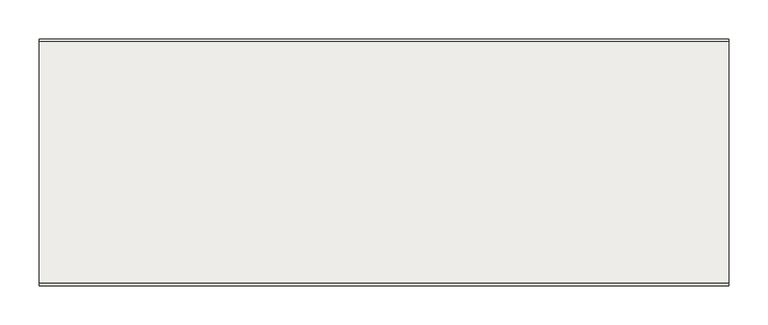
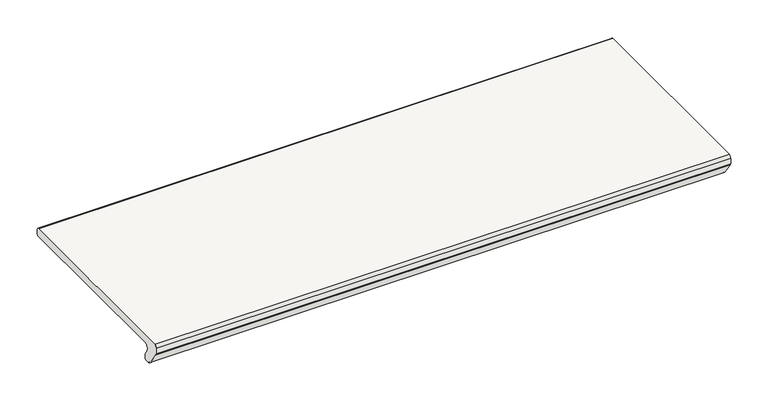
"""IFC4 building model written with IfcOpenShell, lengths in millimetres: slab geometry, ROSA GRES_J62 : Pieza J62_Tresor_Java_Anti-Slip."""

from ifc_helpers import new_model, si_unit, frame, origin, place, context, project, spatial, polyline, circle_curve, source, transform, mapped, element, save
from ifc_brep_helpers import plane_surface, cylinder_surface, revolved_surface, advanced_brep


def slab_bfe98183(model_context):
    return source(origin(), model_context, "Body", "AdvancedBrep", [
        advanced_brep(
        [(884.5100698, 317.0, 2.5), (884.5100698, 317.0, 10.0774941), (884.5100698, 314.2818333, 12.7946269), (884.5100698, 3.9876034, 12.7946269), (884.5100698, 0.0, 8.2984975), (884.5100698, 0.0, -0.2793766), (884.5100698, 0.7963935, -2.84429), (884.5100698, 14.760096, -23.1626329), (884.5100698, 17.666394, -25.1262743), (884.5100698, 18.5721049, -25.1262743), (884.5100698, 19.473321, -26.1221068), (884.5100698, 20.3835268, -27.1188383), (884.5100698, 26.7240304, -27.1188383), (884.5100698, 29.4411632, -24.4017055), (884.5100698, 29.4411632, -18.2354274), (884.5100698, 24.5931401, -10.7276172), (884.5100698, 29.6363327, 0.0), (884.5100698, 314.5, 0.0), (0.0, 317.0, 2.5), (0.0, 314.5, 0.0), (0.0, 29.6363327, 0.0), (0.0, 24.5931401, -10.7276172), (0.0, 29.4411632, -18.2354274), (0.0, 29.4411632, -24.4017055), (0.0, 26.7240304, -27.1188383), (0.0, 20.3835268, -27.1188383), (0.0, 19.4823107, -26.1230058), (0.0, 18.5721049, -25.1262743), (0.0, 17.666394, -25.1262743), (0.0, 14.760096, -23.1626329), (0.0, 0.7963935, -2.84429), (0.0, 0.0, -0.2793766), (0.0, 0.0, 8.2984975), (0.0, 3.9876034, 12.7946269), (0.0, 314.2818333, 12.7946269), (0.0, 316.9989661, 10.0774941)],
        [
            (0, 1),
            (1, 2, circle_curve(frame((884.5100698, 314.2818333, 10.0774941), z_axis=(1.0, 0.0, 0.0), x_axis=(0.0, 0.0, 1.0)), 2.7171328)),
            (2, 3),
            (3, 4, circle_curve(frame((884.5100698, 4.5285547, 8.2984975), z_axis=(1.0, 0.0, 0.0), x_axis=(0.0, -0.9928398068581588, -0.11945341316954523)), 4.5285547)),
            (4, 5),
            (5, 6, circle_curve(frame((884.5100698, 4.5285547, -0.2793766), z_axis=(1.0, 0.0, 0.0), x_axis=(0.0, 0.0, -1.0)), 4.5285547)),
            (6, 7),
            (7, 8, circle_curve(frame((884.5100698, 18.9818017, -20.0468365), z_axis=(1.0, 0.0, 0.0), x_axis=(0.0, 0.5938246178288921, -0.804594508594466)), 5.2469978)),
            (8, 9),
            (9, 10, circle_curve(frame((884.5100698, 18.5721049, -26.0319852), z_axis=(-1.0, 0.0, 0.0), x_axis=(0.0, 1.0, 0.0)), 0.9057109)),
            (10, 11, circle_curve(frame((884.5100698, 20.3835268, -26.2131274), z_axis=(1.0, 0.0, 0.0), x_axis=(0.0, -0.0995037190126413, -0.9950371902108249)), 0.9057109)),
            (11, 12),
            (12, 13, circle_curve(frame((884.5100698, 26.7240304, -24.4017055), z_axis=(1.0, 0.0, 0.0), x_axis=(0.0, 1.0, 0.0)), 2.7171328)),
            (13, 14),
            (14, 15),
            (15, 16, circle_curve(frame((884.5100698, 30.1604402, -6.7956336), z_axis=(-1.0, 0.0, 0.0), x_axis=(0.0, -0.5768912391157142, 0.8168209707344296)), 6.8158144)),
            (16, 17),
            (17, 0, circle_curve(frame((884.5100698, 314.5, 2.5), z_axis=(1.0, 0.0, 0.0), x_axis=(0.0, 1.0, 0.0)), 2.5)),
            (18, 19, circle_curve(frame((0.0, 314.5, 2.5), z_axis=(-1.0, 0.0, 0.0), x_axis=(0.0, 1.0, 0.0)), 2.5)),
            (19, 20),
            (20, 21, circle_curve(frame((0.0, 30.1604402, -6.7956336), z_axis=(1.0, 0.0, 0.0), x_axis=(0.0, -0.5768912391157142, 0.8168209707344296)), 6.8158144)),
            (21, 22),
            (22, 23),
            (23, 24, circle_curve(frame((0.0, 26.7240304, -24.4017055), z_axis=(-1.0, 0.0, 0.0), x_axis=(0.0, 1.0, 0.0)), 2.7171328)),
            (24, 25),
            (25, 26, circle_curve(frame((0.0, 20.3835268, -26.2131274), z_axis=(-1.0, 0.0, 0.0), x_axis=(0.0, -0.0995037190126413, -0.9950371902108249)), 0.9057109)),
            (26, 27, circle_curve(frame((0.0, 18.5721049, -26.0319852), z_axis=(1.0, 0.0, 0.0), x_axis=(0.0, 1.0, 0.0)), 0.9057109)),
            (27, 28),
            (28, 29, circle_curve(frame((0.0, 18.9818017, -20.0468365), z_axis=(-1.0, 0.0, 0.0), x_axis=(0.0, 0.5938246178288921, -0.804594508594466)), 5.2469978)),
            (29, 30),
            (30, 31, circle_curve(frame((0.0, 4.5285547, -0.2793766), z_axis=(-1.0, 0.0, 0.0), x_axis=(0.0, 0.0, -1.0)), 4.5285547)),
            (31, 32),
            (32, 33, circle_curve(frame((0.0, 4.5285547, 8.2984975), z_axis=(-1.0, 0.0, 0.0), x_axis=(0.0, -0.9928398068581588, -0.11945341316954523)), 4.5285547)),
            (33, 34),
            (34, 35, circle_curve(frame((0.0, 314.2818333, 10.0774941), z_axis=(-1.0, 0.0, 0.0), x_axis=(0.0, 0.0, 1.0)), 2.7171328)),
            (35, 18),
            (16, 20),
            (19, 17),
            (18, 0),
            (35, 1),
            (34, 2),
            (33, 3),
            (32, 4),
            (31, 5),
            (30, 6),
            (29, 7),
            (28, 8),
            (27, 9),
            (26, 10),
            (25, 11),
            (24, 12),
            (23, 13),
            (22, 14),
            (21, 15),
        ],
        [
            plane_surface(frame((884.5100698, 317.0, 10.0774941), z_axis=(1.0, 0.0, 0.0), x_axis=(0.0, 0.0, 1.0))),
            plane_surface(frame((0.0, 317.0, 10.0774941), z_axis=(-1.0, 0.0, 0.0), x_axis=(0.0, 0.0, -1.0))),
            plane_surface(frame((884.5100698, 172.0681664, 0.0), z_axis=(0.0, 0.0, -1.0), x_axis=(0.0, 1.0, 0.0))),
            cylinder_surface(frame((884.5100698, 314.5, 2.5), z_axis=(-1.0, 0.0, 0.0), x_axis=(0.0, 1.0, 0.0)), 2.5),
            plane_surface(frame((884.5100698, 317.0, 6.288747), z_axis=(0.0, 1.0, 0.0), x_axis=(0.0, 0.0, 1.0))),
            cylinder_surface(frame((884.5100698, 314.2818333, 10.0774941), z_axis=(-1.0, 0.0, 0.0), x_axis=(0.0, 0.0, 1.0)), 2.7171328),
            plane_surface(frame((884.5100698, 159.1347183, 12.7946269), z_axis=(0.0, 0.0, 1.0), x_axis=(0.0, -1.0, 0.0))),
            cylinder_surface(frame((884.5100698, 4.5285547, 8.2984975), z_axis=(-1.0, 0.0, 0.0), x_axis=(0.0, -0.9928398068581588, -0.11945341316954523)), 4.5285547),
            plane_surface(frame((884.5100698, 0.0, 4.0095604), z_axis=(0.0, -1.0, 0.0), x_axis=(0.0, 0.0, -1.0))),
            cylinder_surface(frame((884.5100698, 4.5285547, -0.2793766), z_axis=(-1.0, 0.0, 0.0), x_axis=(0.0, 0.0, -1.0)), 4.5285547),
            plane_surface(frame((884.5100698, 7.7782448, -13.0034614), z_axis=(0.0, -0.8241395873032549, -0.5663867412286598), x_axis=(0.0, 0.5663867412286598, -0.8241395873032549))),
            cylinder_surface(frame((884.5100698, 18.9818017, -20.0468365), z_axis=(-1.0, 0.0, 0.0), x_axis=(0.0, 0.5938246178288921, -0.804594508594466)), 5.2469978),
            plane_surface(frame((884.5100698, 18.1192494, -25.1262743), z_axis=(0.0, -1.2857360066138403e-11, -1.0), x_axis=(0.0, 1.0, -1.2857360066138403e-11))),
            revolved_surface(polyline([(0.0, 19.4778158, -26.0319852), (884.5100698, 19.4778158, -26.0319852)]), (884.5100698, 18.5721049, -26.0319852), (-1.0, 0.0, 0.0)),
            cylinder_surface(frame((884.5100698, 20.3835268, -26.2131274), z_axis=(-1.0, 0.0, 0.0), x_axis=(0.0, -0.0995037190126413, -0.9950371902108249)), 0.9057109),
            plane_surface(frame((884.5100698, 23.5537786, -27.1188383), z_axis=(0.0, -2.3443000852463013e-12, -1.0), x_axis=(0.0, 1.0, -2.3443000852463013e-12))),
            cylinder_surface(frame((884.5100698, 26.7240304, -24.4017055), z_axis=(-1.0, 0.0, 0.0), x_axis=(0.0, 1.0, 0.0)), 2.7171328),
            plane_surface(frame((884.5100698, 29.4411632, -21.3185665), z_axis=(0.0, 1.0, 0.0), x_axis=(0.0, 0.0, 1.0))),
            plane_surface(frame((884.5100698, 27.0171517, -14.4815223), z_axis=(0.0, 0.8400786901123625, 0.5424645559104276), x_axis=(0.0, -0.5424645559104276, 0.8400786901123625))),
            revolved_surface(polyline([(0.0, 26.228456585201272, -1.2283334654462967), (884.5100698, 26.228456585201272, -1.2283334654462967)]), (884.5100698, 30.1604402, -6.7956336), (-1.0, 0.0, 0.0)),
        ],
        [
            (0, [[1, 2, 3, 4, 5, 6, 7, 8, 9, 10, 11, 12, 13, 14, 15, 16, 17, 18]]),
            (1, [[19, 20, 21, 22, 23, 24, 25, 26, 27, 28, 29, 30, 31, 32, 33, 34, 35, 36]]),
            (2, [[-17, 37, -20, 38]]),
            (3, [[-18, -38, -19, 39]]),
            (4, [[-1, -39, -36, 40]]),
            (5, [[-2, -40, -35, 41]]),
            (6, [[-3, -41, -34, 42]]),
            (7, [[-4, -42, -33, 43]]),
            (8, [[-5, -43, -32, 44]]),
            (9, [[-6, -44, -31, 45]]),
            (10, [[-7, -45, -30, 46]]),
            (11, [[-8, -46, -29, 47]]),
            (12, [[-9, -47, -28, 48]]),
            (13, [[-10, -48, -27, 49]]),
            (14, [[-11, -49, -26, 50]]),
            (15, [[-12, -50, -25, 51]]),
            (16, [[-13, -51, -24, 52]]),
            (17, [[-14, -52, -23, 53]]),
            (18, [[-15, -53, -22, 54]]),
            (19, [[-16, -54, -21, -37]]),
        ],
    ),
    ])


if __name__ == "__main__":
    model = new_model("IFC4")
    model_context = context("Model", 3, world=origin())
    ifc_project = project(units=[si_unit("LENGTHUNIT", "METRE", prefix="MILLI")], contexts=[model_context])
    site = spatial("IfcSite", under=ifc_project)
    building = spatial("IfcBuilding", under=site)
    placement = place(None, origin())
    slab_shape = slab_bfe98183(model_context)
    element("IfcSlab", 1, ObjectType="ROSA GRES_J62 : Pieza J62_Tresor_Java_Anti-Slip", at=placement, inside=building, context=model_context, shape_type="MappedRepresentation", body=[
        mapped(slab_shape, transform((0.0, 0.0, 0.0), x_axis=(1.0, 0.0, 0.0), y_axis=(0.0, 1.0, 0.0), z_axis=(0.0, 0.0, 1.0))),
    ])
    save(model, "model.ifc")
